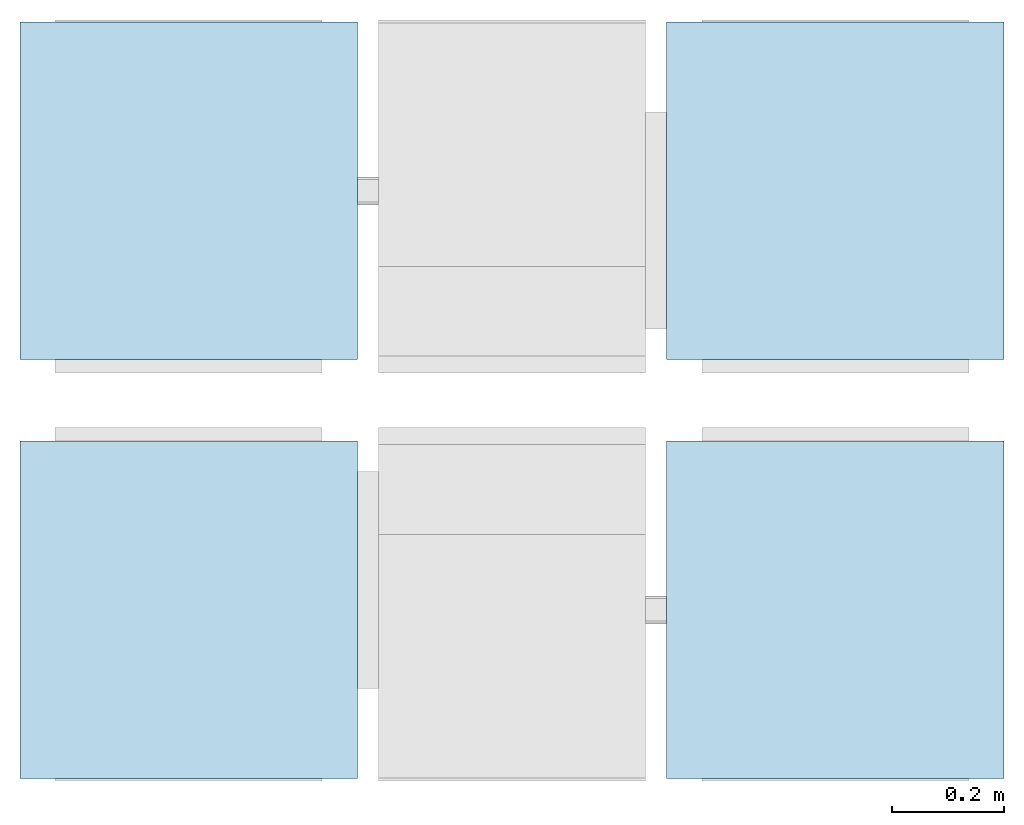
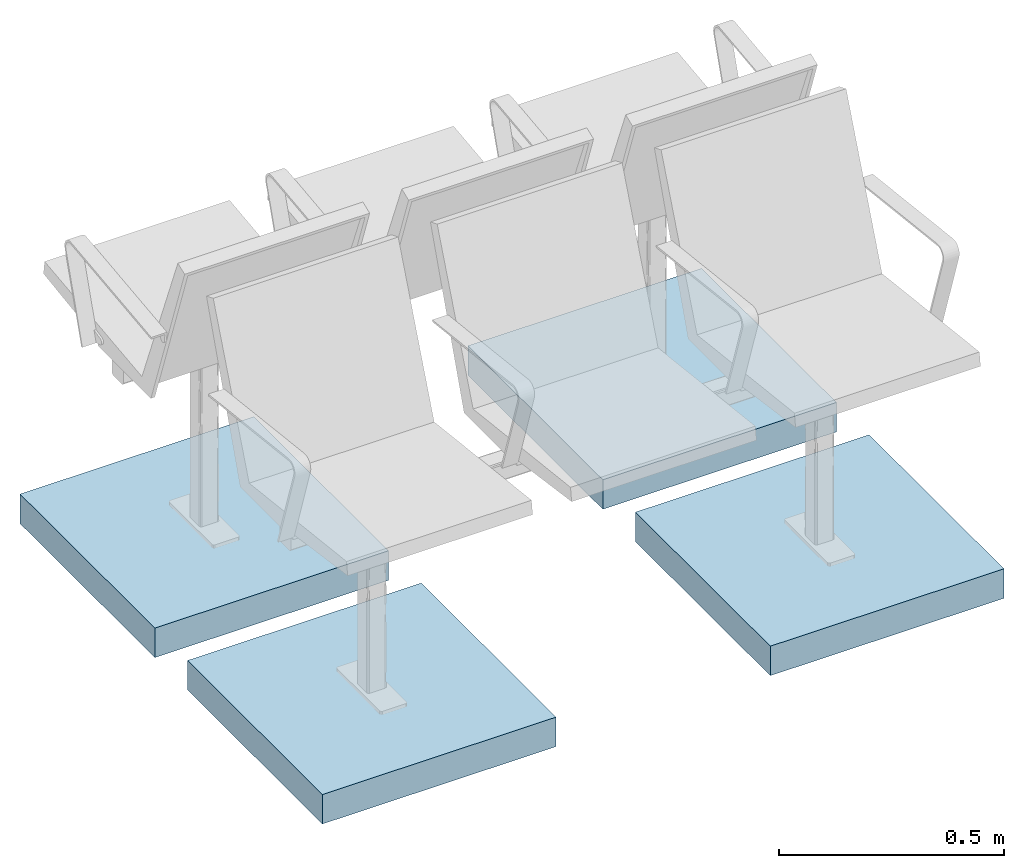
# One storey, incomplete: 4 slabs.
"""IFC4 building model written with IfcOpenShell, lengths in metres."""

from ifc_helpers import new_model, entity, si_unit, converted_unit, direction, frame, frame_2d, origin, origin_2d_with_axis, place, context, subcontext, project, spatial, rectangle, extrude, material, type_object, element, save


model = new_model("IFC4")

# Units and contexts
model_context = context("Model", 3, precision=1e-05, world=origin(), true_north=direction((6.123031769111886e-17, 1.0)))
body_context = subcontext(model_context, "Body", "Model", "MODEL_VIEW")
ifc_project = project(units=[si_unit("LENGTHUNIT", "METRE"), converted_unit("PLANEANGLEUNIT", "DEGREE", entity("IfcPlaneAngleMeasure", 0.017453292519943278), si_unit("PLANEANGLEUNIT", "RADIAN"), dimensions=[0, 0, 0, 0, 0, 0, 0]), si_unit("AREAUNIT", "SQUARE_METRE")], contexts=[model_context])

# Site, building, storey
site_placement = place(None, origin())
site = spatial("IfcSite", under=ifc_project, at=site_placement, Name="Default", CompositionType="ELEMENT")
building_placement = place(site_placement, origin())
building = spatial("IfcBuilding", under=site, at=building_placement, CompositionType="ELEMENT")
storey_placement = place(building_placement, origin())
storey = spatial("IfcBuildingStorey", under=building, at=storey_placement, Name="DB_Bezugshoehe_max_Bahnsteigkante", CompositionType="ELEMENT", Elevation=0.0)

# Slabs
ifc_material = material(Name="DB_Fertigbeton", Category="DB_Beton")
slab_type = type_object("IfcSlabType", Name="DB_Sitzbank_Fundament:DB_Sitzbank_Fundament", PredefinedType="BASESLAB", material=ifc_material)
slab_1_placement = place(storey_placement, origin())
element("IfcSlab", 1, at=slab_1_placement, inside=storey, type_object=slab_type, Name="DB_Sitzbank_Fundament:DB_Sitzbank_Fundament", ObjectType="DB_Sitzbank_Fundament:DB_Sitzbank_Fundament", PredefinedType="BASESLAB", context=body_context, shape_type="SweptSolid", body=[
    extrude(rectangle(XDim=0.5999999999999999, YDim=0.5999999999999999, at=frame_2d((-2.7755575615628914e-17, 0.0), x_axis=(1.0, 0.0))), frame((0.5749999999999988, 0.3725000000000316, -0.25), z_axis=(0.0, 0.0, 1.0), x_axis=(0.0, 1.0, 0.0)), (0.0, 0.0, 1.0), 0.08000000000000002),
])
slab_2_placement = place(storey_placement, origin())
element("IfcSlab", 2, at=slab_2_placement, inside=storey, type_object=slab_type, Name="DB_Sitzbank_Fundament:DB_Sitzbank_Fundament", ObjectType="DB_Sitzbank_Fundament:DB_Sitzbank_Fundament", PredefinedType="BASESLAB", context=body_context, shape_type="SweptSolid", body=[
    extrude(rectangle(XDim=0.5999999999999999, YDim=0.5999999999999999, at=frame_2d((0.0, -8.326672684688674e-17), x_axis=(1.0, 0.0))), frame((0.5749999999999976, -0.37249999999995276, -0.25), z_axis=(0.0, 0.0, 1.0), x_axis=(0.0, 1.0, 0.0)), (0.0, 0.0, 1.0), 0.08000000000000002),
])
slab_3_placement = place(storey_placement, origin())
element("IfcSlab", 3, at=slab_3_placement, inside=storey, type_object=slab_type, Name="DB_Sitzbank_Fundament:DB_Sitzbank_Fundament", ObjectType="DB_Sitzbank_Fundament:DB_Sitzbank_Fundament", PredefinedType="BASESLAB", context=body_context, shape_type="SweptSolid", body=[
    extrude(rectangle(XDim=0.5999999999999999, YDim=0.5999999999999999, at=origin_2d_with_axis()), frame((-0.5750000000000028, -0.37249999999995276, -0.25), z_axis=(0.0, 0.0, 1.0), x_axis=(0.0, 1.0, 0.0)), (0.0, 0.0, 1.0), 0.08000000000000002),
])
slab_4_placement = place(storey_placement, origin())
element("IfcSlab", 4, at=slab_4_placement, inside=storey, type_object=slab_type, Name="DB_Sitzbank_Fundament:DB_Sitzbank_Fundament", ObjectType="DB_Sitzbank_Fundament:DB_Sitzbank_Fundament", PredefinedType="BASESLAB", context=body_context, shape_type="SweptSolid", body=[
    extrude(rectangle(XDim=0.6, YDim=0.5999999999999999, at=frame_2d((5.551115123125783e-17, 8.326672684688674e-17), x_axis=(1.0, 0.0))), frame((-0.5750000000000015, 0.37250000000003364, -0.25), z_axis=(0.0, 0.0, 1.0), x_axis=(0.0, 1.0, 0.0)), (0.0, 0.0, 1.0), 0.08000000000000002),
])

save(model, "model.ifc")
